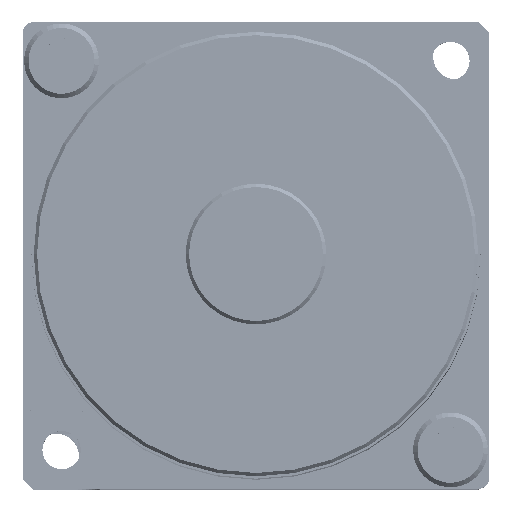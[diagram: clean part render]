
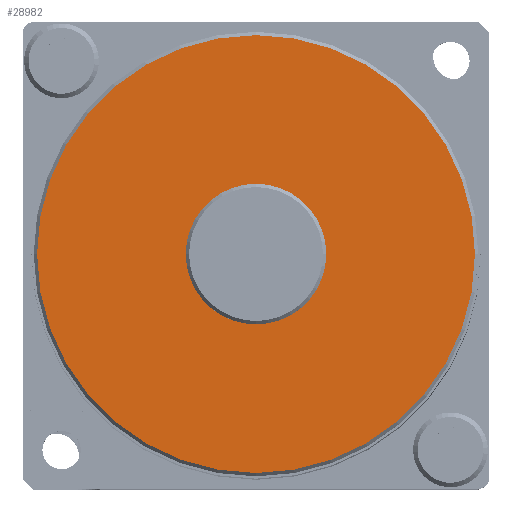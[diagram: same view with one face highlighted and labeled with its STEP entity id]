
A CAD part, top view. The second image highlights one B-rep face of the part: STEP entity #28982.
In plain terms, the highlighted planar face has unit normal (0, 0, 1) as drawn and (0, 0, -1) by its records, which use the part's own axes.
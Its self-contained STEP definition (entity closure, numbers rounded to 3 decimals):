
#3937 = DIRECTION ( 'NONE',  ( 1., 0., 0. ) ) ;
#4003 = CARTESIAN_POINT ( 'NONE',  ( 6.325, 0., -68. ) ) ;
#7571 = CIRCLE ( 'NONE', #63739, 19.7 ) ;
#8786 = DIRECTION ( 'NONE',  ( 0., 0., -1. ) ) ;
#9950 = VERTEX_POINT ( 'NONE', #62551 ) ;
#20819 = VERTEX_POINT ( 'NONE', #4003 ) ;
#22764 = EDGE_CURVE ( 'NONE', #75498, #115064, #93006, .T. ) ;
#23297 = DIRECTION ( 'NONE',  ( 0., 0., -1. ) ) ;
#23876 = EDGE_CURVE ( 'NONE', #115064, #75498, #7571, .T. ) ;
#28982 = ADVANCED_FACE ( 'NONE', ( #115176, #37538 ), #80735, .F. ) ;
#37538 = FACE_BOUND ( 'NONE', #83751, .T. ) ;
#48524 = DIRECTION ( 'NONE',  ( 0., 0., -1. ) ) ;
#51781 = DIRECTION ( 'NONE',  ( 0., 0., 1. ) ) ;
#54098 = CARTESIAN_POINT ( 'NONE',  ( -19.7, 0., -68. ) ) ;
#57018 = CARTESIAN_POINT ( 'NONE',  ( 19.7, 0., -68. ) ) ;
#62369 = DIRECTION ( 'NONE',  ( 0., 0., -1. ) ) ;
#62551 = CARTESIAN_POINT ( 'NONE',  ( -6.325, 0., -68. ) ) ;
#63739 = AXIS2_PLACEMENT_3D ( 'NONE', #120555, #62369, #3937 ) ;
#64361 = AXIS2_PLACEMENT_3D ( 'NONE', #81700, #23297, #91446 ) ;
#67192 = CARTESIAN_POINT ( 'NONE',  ( 0., 0., -68. ) ) ;
#75498 = VERTEX_POINT ( 'NONE', #54098 ) ;
#77001 = DIRECTION ( 'NONE',  ( 1., 0., 0. ) ) ;
#80330 = CARTESIAN_POINT ( 'NONE',  ( 0., 0., -68. ) ) ;
#80584 = EDGE_CURVE ( 'NONE', #9950, #20819, #120119, .T. ) ;
#80735 = PLANE ( 'NONE',  #98206 ) ;
#81700 = CARTESIAN_POINT ( 'NONE',  ( 0., 0., -68. ) ) ;
#83181 = ORIENTED_EDGE ( 'NONE', *, *, #80584, .F. ) ;
#83751 = EDGE_LOOP ( 'NONE', ( #93188, #83181 ) ) ;
#88164 = AXIS2_PLACEMENT_3D ( 'NONE', #106764, #48524, #116532 ) ;
#91446 = DIRECTION ( 'NONE',  ( 1., 0., 0. ) ) ;
#93006 = CIRCLE ( 'NONE', #88164, 19.7 ) ;
#93188 = ORIENTED_EDGE ( 'NONE', *, *, #115490, .F. ) ;
#98206 = AXIS2_PLACEMENT_3D ( 'NONE', #80330, #51781, #119774 ) ;
#106764 = CARTESIAN_POINT ( 'NONE',  ( 0., 0., -68. ) ) ;
#107580 = AXIS2_PLACEMENT_3D ( 'NONE', #67192, #8786, #77001 ) ;
#109118 = EDGE_LOOP ( 'NONE', ( #120793, #113620 ) ) ;
#113620 = ORIENTED_EDGE ( 'NONE', *, *, #22764, .T. ) ;
#114498 = CIRCLE ( 'NONE', #64361, 6.325 ) ;
#115064 = VERTEX_POINT ( 'NONE', #57018 ) ;
#115176 = FACE_OUTER_BOUND ( 'NONE', #109118, .T. ) ;
#115490 = EDGE_CURVE ( 'NONE', #20819, #9950, #114498, .T. ) ;
#116532 = DIRECTION ( 'NONE',  ( 1., 0., 0. ) ) ;
#119774 = DIRECTION ( 'NONE',  ( 1., 0., 0. ) ) ;
#120119 = CIRCLE ( 'NONE', #107580, 6.325 ) ;
#120555 = CARTESIAN_POINT ( 'NONE',  ( 0., 0., -68. ) ) ;
#120793 = ORIENTED_EDGE ( 'NONE', *, *, #23876, .T. ) ;
